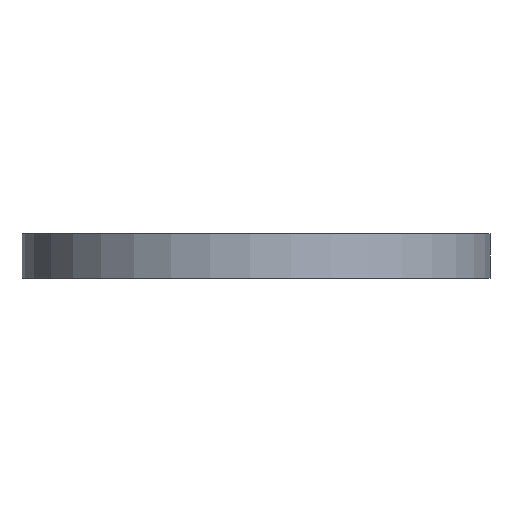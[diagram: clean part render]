
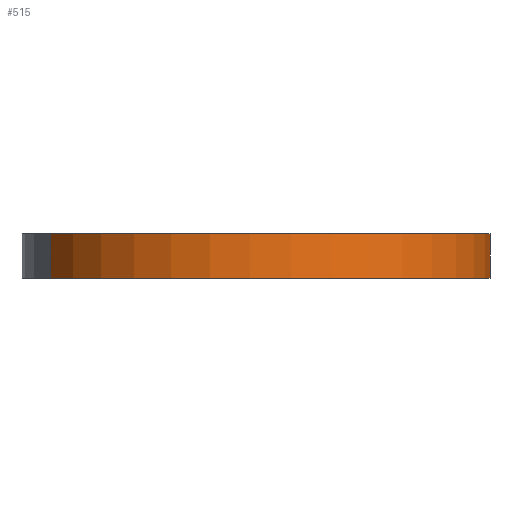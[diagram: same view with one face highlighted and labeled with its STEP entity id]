
A CAD part, front view. The second image highlights one B-rep face of the part: STEP entity #515.
In plain terms, the highlighted cylindrical face has radius 52.5 mm (diameter 105 mm), a partial arc.
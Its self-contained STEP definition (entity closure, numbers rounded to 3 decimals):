
#238=CARTESIAN_POINT('Vertex',(46.073,25.17,-50.726)) ;
#240=CARTESIAN_POINT('Vertex',(-46.073,-25.17,-50.726)) ;
#243=CARTESIAN_POINT('Axis2P3D Location',(0.,0.,-50.726)) ;
#473=CARTESIAN_POINT('Axis2P3D Location',(0.,0.,-55.726)) ;
#478=CARTESIAN_POINT('Line Origine',(-46.073,-25.17,-55.726)) ;
#482=CARTESIAN_POINT('Vertex',(-46.073,-25.17,-60.726)) ;
#485=CARTESIAN_POINT('Line Origine',(46.073,25.17,-55.726)) ;
#489=CARTESIAN_POINT('Vertex',(46.073,25.17,-60.726)) ;
#504=CARTESIAN_POINT('Axis2P3D Location',(0.,0.,-60.726)) ;
#244=DIRECTION('Axis2P3D Direction',(0.,0.,1.)) ;
#474=DIRECTION('Axis2P3D Direction',(0.,0.,1.)) ;
#475=DIRECTION('Axis2P3D XDirection',(-0.878,-0.479,-0.)) ;
#479=DIRECTION('Vector Direction',(0.,0.,1.)) ;
#486=DIRECTION('Vector Direction',(0.,0.,1.)) ;
#505=DIRECTION('Axis2P3D Direction',(0.,0.,1.)) ;
#245=AXIS2_PLACEMENT_3D('Circle Axis2P3D',#243,#244,$) ;
#476=AXIS2_PLACEMENT_3D('Cylinder Axis2P3D',#473,#474,#475) ;
#506=AXIS2_PLACEMENT_3D('Circle Axis2P3D',#504,#505,$) ;
#510=ORIENTED_EDGE('',*,*,#491,.T.) ;
#511=ORIENTED_EDGE('',*,*,#247,.F.) ;
#512=ORIENTED_EDGE('',*,*,#484,.F.) ;
#513=ORIENTED_EDGE('',*,*,#508,.T.) ;
#480=VECTOR('Line Direction',#479,1.) ;
#487=VECTOR('Line Direction',#486,1.) ;
#515=ADVANCED_FACE('Corps principal',(#514),#477,.T.) ;
#246=CIRCLE('generated circle',#245,52.5) ;
#507=CIRCLE('generated circle',#506,52.5) ;
#477=CYLINDRICAL_SURFACE('generated cylinder',#476,52.5) ;
#247=EDGE_CURVE('',#241,#239,#246,.T.) ;
#484=EDGE_CURVE('',#483,#241,#481,.T.) ;
#491=EDGE_CURVE('',#490,#239,#488,.T.) ;
#508=EDGE_CURVE('',#483,#490,#507,.T.) ;
#509=EDGE_LOOP('',(#510,#511,#512,#513)) ;
#514=FACE_OUTER_BOUND('',#509,.T.) ;
#481=LINE('Line',#478,#480) ;
#488=LINE('Line',#485,#487) ;
#239=VERTEX_POINT('',#238) ;
#241=VERTEX_POINT('',#240) ;
#483=VERTEX_POINT('',#482) ;
#490=VERTEX_POINT('',#489) ;
